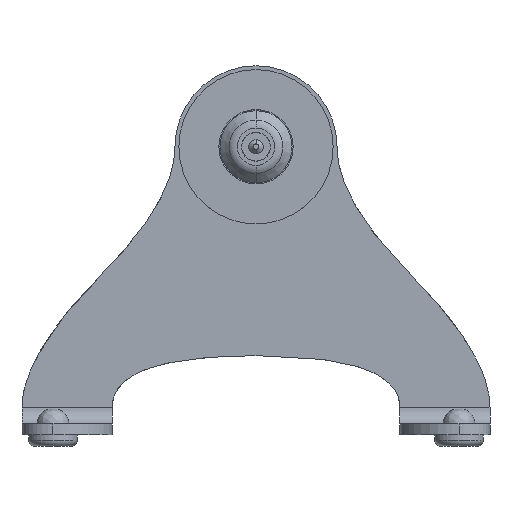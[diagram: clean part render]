
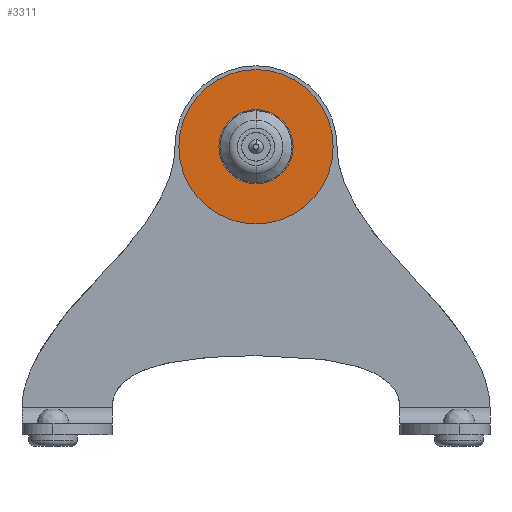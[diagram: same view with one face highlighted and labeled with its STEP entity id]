
A CAD part, top view. The second image highlights one B-rep face of the part: STEP entity #3311.
In plain terms, the highlighted planar face has unit normal (0, 0, 1).
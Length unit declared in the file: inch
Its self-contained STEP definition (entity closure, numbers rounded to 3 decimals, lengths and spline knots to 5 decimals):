
#739=CARTESIAN_POINT('',(0.,2.85433,0.36811));
#740=DIRECTION('',(0.,0.,-1.));
#741=DIRECTION('',(-1.,0.,0.));
#742=AXIS2_PLACEMENT_3D('',#739,#740,#741);
#744=CARTESIAN_POINT('',(0.,2.85433,0.36811));
#745=DIRECTION('',(0.,0.,-1.));
#746=DIRECTION('',(1.,0.,0.));
#747=AXIS2_PLACEMENT_3D('',#744,#745,#746);
#749=CARTESIAN_POINT('',(0.,2.85433,0.36811));
#750=DIRECTION('',(0.,0.,1.));
#751=DIRECTION('',(-1.,0.,0.));
#752=AXIS2_PLACEMENT_3D('',#749,#750,#751);
#754=CARTESIAN_POINT('',(0.,2.85433,0.36811));
#755=DIRECTION('',(0.,0.,1.));
#756=DIRECTION('',(1.,0.,0.));
#757=AXIS2_PLACEMENT_3D('',#754,#755,#756);
#2285=CARTESIAN_POINT('',(-0.40625,2.85433,0.36811));
#2286=CARTESIAN_POINT('',(0.40625,2.85433,0.36811));
#2287=VERTEX_POINT('',#2285);
#2288=VERTEX_POINT('',#2286);
#2289=CARTESIAN_POINT('',(-0.84375,2.85433,0.36811));
#2290=CARTESIAN_POINT('',(0.84375,2.85433,0.36811));
#2291=VERTEX_POINT('',#2289);
#2292=VERTEX_POINT('',#2290);
#3296=CARTESIAN_POINT('',(0.,2.85433,0.36811));
#3297=DIRECTION('',(0.,0.,-1.));
#3298=DIRECTION('',(-1.,0.,0.));
#3299=AXIS2_PLACEMENT_3D('',#3296,#3297,#3298);
#3300=PLANE('',#3299);
#3301=ORIENTED_EDGE('',*,*,#3276,.T.);
#3302=ORIENTED_EDGE('',*,*,#3290,.T.);
#3303=EDGE_LOOP('',(#3301,#3302));
#3304=FACE_OUTER_BOUND('',#3303,.F.);
#3306=ORIENTED_EDGE('',*,*,#3305,.T.);
#3308=ORIENTED_EDGE('',*,*,#3307,.T.);
#3309=EDGE_LOOP('',(#3306,#3308));
#3310=FACE_BOUND('',#3309,.F.);
#3311=ADVANCED_FACE('',(#3304,#3310),#3300,.F.);
#743=CIRCLE('',#742,0.84375);
#748=CIRCLE('',#747,0.84375);
#753=CIRCLE('',#752,0.40625);
#758=CIRCLE('',#757,0.40625);
#3276=EDGE_CURVE('',#2291,#2292,#743,.T.);
#3290=EDGE_CURVE('',#2292,#2291,#748,.T.);
#3305=EDGE_CURVE('',#2287,#2288,#753,.T.);
#3307=EDGE_CURVE('',#2288,#2287,#758,.T.);
